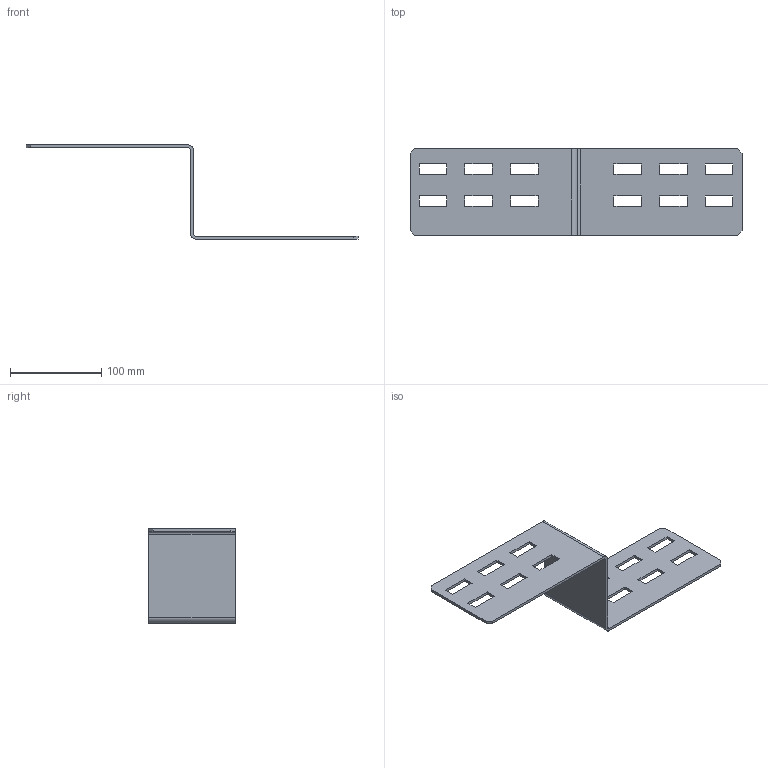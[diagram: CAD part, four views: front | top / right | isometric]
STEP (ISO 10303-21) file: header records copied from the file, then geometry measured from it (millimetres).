
FILE_DESCRIPTION(('Creo Elements/Direct Modeling STEP Export'),'2;1');
FILE_NAME('//pserver/office/EK/ME10-3D/3D-output/WPRR-L100-10.stp','2020-03-12T10:46:02',(''),(''),'PTC Creo Elements/Direct Modeling STEP processor for AP214 (Solid Model)','PTC Creo Elements/Direct Modeling 19.0C 15-Aug-2015 (C) Parametric Technology GmbH','');
FILE_SCHEMA(('AUTOMOTIVE_DESIGN { 1 0 10303 214 1 1 1 1 }'));
Length unit declared in the file: millimetre
Products named in the file (2): WPRR-L100-10
Assembly tree (1 placements, depth 2):
  WPRR-L100-10
    WPRR-L100-10
Bounding box: 363 x 95 x 103 mm (x, y, z)
Volume: 118284.1 mm3; surface area: 85133.7 mm2
Topology: 1 solids, 1 shells, 66 faces, 192 edges, 128 vertices
Faces by surface type: plane 62, cylinder 4
Entity records: 2237 total; most frequent: CARTESIAN_POINT 388, ORIENTED_EDGE 384, DIRECTION 336, EDGE_CURVE 192, VECTOR 184, LINE 184, VERTEX_POINT 128, EDGE_LOOP 90
